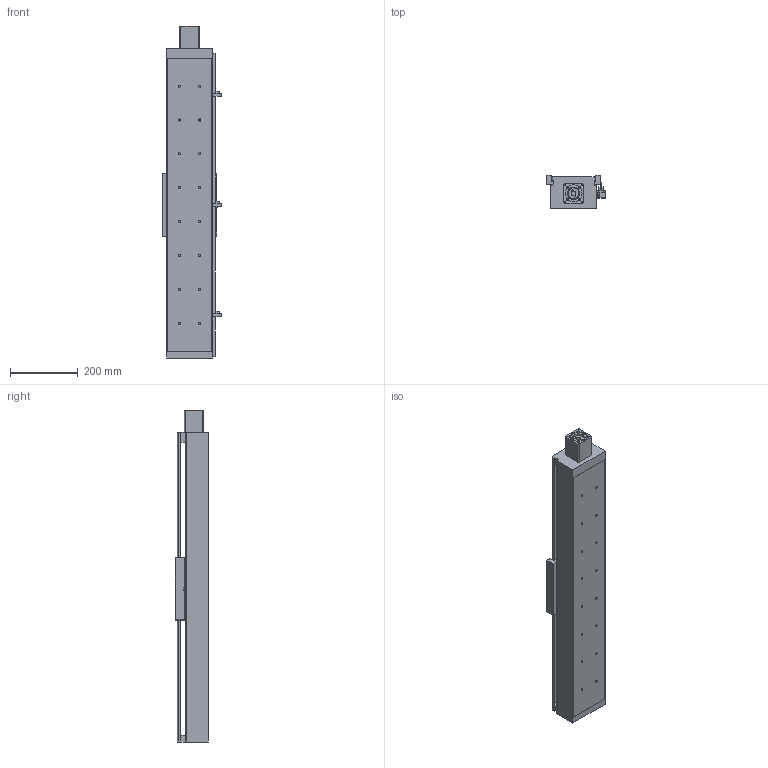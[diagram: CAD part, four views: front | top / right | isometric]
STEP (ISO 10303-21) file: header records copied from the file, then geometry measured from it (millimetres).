
FILE_DESCRIPTION((''),'2;1');
FILE_NAME('E:\libraries\UIA actuator library 2009\standard actuator\UIA136 ball screw 20\UIA136R15NDC-_ _ _-R20_ _-M60-P13-C10-S\UIA136R15NDC-650-R20_ _-M60-P13-C10-S.stp','2016-04-27T11:01:55',('h029'),(''),'Autodesk Inventor 11','Autodesk Inventor 11','');
FILE_SCHEMA(('AUTOMOTIVE_DESIGN { 1 0 10303 214 1 1 1 1 }'));
Length unit declared in the file: millimetre
Products named in the file (10): UIA136R15NDC-650; UIA136R15NDC-body; motor mount F60; SOH-32C; SOH-32C-3; SOH-32C-1; SOH-32C-2; Carriage; Sensor Switch; sensor rail
Assembly tree (9 placements, depth 3):
  UIA136R15NDC-650
    UIA136R15NDC-body
    motor mount F60
    SOH-32C
      SOH-32C-3
      SOH-32C-1
      SOH-32C-2
    Carriage
    Sensor Switch
    sensor rail
Bounding box: 174.5 x 98 x 980 mm (x, y, z)
Volume: 3848177.8 mm3; surface area: 1038498 mm2
Topology: 8 solids, 8 shells, 491 faces, 1293 edges, 849 vertices
Faces by surface type: plane 311, bspline 138, cylinder 38, cone 4
Full cylindrical faces by diameter (mm): 2.459 x2, 3.242 x2, 4.5 x2, 5.5 x3, 7.5 x2, 10 x2, 12 x1, 14 x1, 32 x3, 37 x1, 41.9 x1, 42.1 x1, 43.5 x1
Entity records: 16115 total; most frequent: CARTESIAN_POINT 4754, ORIENTED_EDGE 2194, DIRECTION 2130, EDGE_CURVE 1097, VECTOR 790, LINE 790, VERTEX_POINT 784, EDGE_LOOP 737
